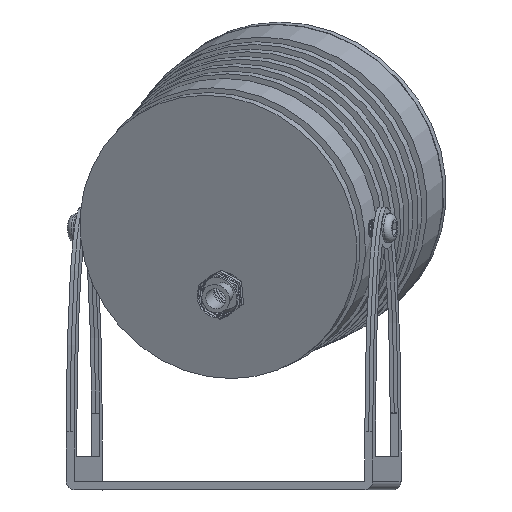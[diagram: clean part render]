
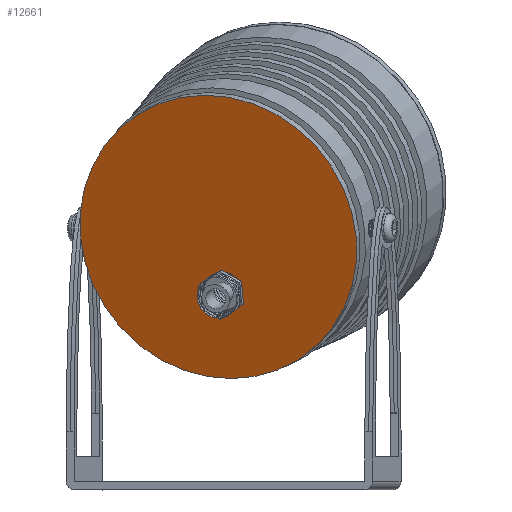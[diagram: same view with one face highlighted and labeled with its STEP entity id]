
A CAD part, top view. The second image highlights one B-rep face of the part: STEP entity #12661.
In plain terms, the highlighted planar face has unit normal (-0.33, -0.259, 0.908).
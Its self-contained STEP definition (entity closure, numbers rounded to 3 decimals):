
#50=FACE_BOUND('',#1369,.T.);
#144=PLANE('',#13388);
#665=FACE_OUTER_BOUND('',#1368,.T.);
#1368=EDGE_LOOP('',(#10065));
#1369=EDGE_LOOP('',(#10066,#10067,#10068,#10069,#10070,#10071,#10072,#10073,
#10074,#10075,#10076,#10077,#10078,#10079,#10080,#10081));
#1744=CIRCLE('',#13221,5.099);
#1763=CIRCLE('',#13389,35.3);
#1764=CIRCLE('',#13390,0.5);
#1765=CIRCLE('',#13391,0.5);
#1766=CIRCLE('',#13392,0.5);
#1767=CIRCLE('',#13393,0.5);
#1768=CIRCLE('',#13394,0.5);
#1769=CIRCLE('',#13395,0.5);
#2678=B_SPLINE_CURVE_WITH_KNOTS('',3,(#42310,#42311,#42312,#42313),
 .UNSPECIFIED.,.F.,.F.,(4,4),(0.,0.011),.UNSPECIFIED.);
#2685=B_SPLINE_CURVE_WITH_KNOTS('',3,(#43429,#43430,#43431,#43432),
 .UNSPECIFIED.,.F.,.F.,(4,4),(0.94,0.951),
 .UNSPECIFIED.);
#3358=LINE('',#43449,#4041);
#3359=LINE('',#43451,#4042);
#3360=LINE('',#43455,#4043);
#3361=LINE('',#43459,#4044);
#3362=LINE('',#43463,#4045);
#3363=LINE('',#43467,#4046);
#3364=LINE('',#43471,#4047);
#4041=VECTOR('',#14940,10.);
#4042=VECTOR('',#14941,10.);
#4043=VECTOR('',#14944,10.);
#4044=VECTOR('',#14947,10.);
#4045=VECTOR('',#14950,10.);
#4046=VECTOR('',#14953,10.);
#4047=VECTOR('',#14956,10.);
#4888=VERTEX_POINT('',#32168);
#4889=VERTEX_POINT('',#32173);
#5173=VERTEX_POINT('',#42309);
#5174=VERTEX_POINT('',#43173);
#5176=VERTEX_POINT('',#43446);
#5177=VERTEX_POINT('',#43448);
#5178=VERTEX_POINT('',#43450);
#5179=VERTEX_POINT('',#43452);
#5180=VERTEX_POINT('',#43454);
#5181=VERTEX_POINT('',#43456);
#5182=VERTEX_POINT('',#43458);
#5183=VERTEX_POINT('',#43460);
#5184=VERTEX_POINT('',#43462);
#5185=VERTEX_POINT('',#43464);
#5186=VERTEX_POINT('',#43466);
#5187=VERTEX_POINT('',#43468);
#5188=VERTEX_POINT('',#43470);
#6454=EDGE_CURVE('',#4889,#4888,#1744,.T.);
#6891=EDGE_CURVE('',#4888,#5173,#2678,.T.);
#6898=EDGE_CURVE('',#5174,#4889,#2685,.T.);
#6901=EDGE_CURVE('',#5176,#5176,#1763,.T.);
#6902=EDGE_CURVE('',#5177,#5174,#3358,.T.);
#6903=EDGE_CURVE('',#5173,#5178,#3359,.T.);
#6904=EDGE_CURVE('',#5178,#5179,#1764,.T.);
#6905=EDGE_CURVE('',#5179,#5180,#3360,.T.);
#6906=EDGE_CURVE('',#5180,#5181,#1765,.T.);
#6907=EDGE_CURVE('',#5181,#5182,#3361,.T.);
#6908=EDGE_CURVE('',#5182,#5183,#1766,.T.);
#6909=EDGE_CURVE('',#5183,#5184,#3362,.T.);
#6910=EDGE_CURVE('',#5184,#5185,#1767,.T.);
#6911=EDGE_CURVE('',#5185,#5186,#3363,.T.);
#6912=EDGE_CURVE('',#5186,#5187,#1768,.T.);
#6913=EDGE_CURVE('',#5187,#5188,#3364,.T.);
#6914=EDGE_CURVE('',#5188,#5177,#1769,.T.);
#10065=ORIENTED_EDGE('',*,*,#6901,.F.);
#10066=ORIENTED_EDGE('',*,*,#6902,.T.);
#10067=ORIENTED_EDGE('',*,*,#6898,.T.);
#10068=ORIENTED_EDGE('',*,*,#6454,.T.);
#10069=ORIENTED_EDGE('',*,*,#6891,.T.);
#10070=ORIENTED_EDGE('',*,*,#6903,.T.);
#10071=ORIENTED_EDGE('',*,*,#6904,.T.);
#10072=ORIENTED_EDGE('',*,*,#6905,.T.);
#10073=ORIENTED_EDGE('',*,*,#6906,.T.);
#10074=ORIENTED_EDGE('',*,*,#6907,.T.);
#10075=ORIENTED_EDGE('',*,*,#6908,.T.);
#10076=ORIENTED_EDGE('',*,*,#6909,.T.);
#10077=ORIENTED_EDGE('',*,*,#6910,.T.);
#10078=ORIENTED_EDGE('',*,*,#6911,.T.);
#10079=ORIENTED_EDGE('',*,*,#6912,.T.);
#10080=ORIENTED_EDGE('',*,*,#6913,.T.);
#10081=ORIENTED_EDGE('',*,*,#6914,.T.);
#12661=ADVANCED_FACE('',(#665,#50),#144,.T.);
#13221=AXIS2_PLACEMENT_3D('',#32174,#14464,#14465);
#13388=AXIS2_PLACEMENT_3D('',#43445,#14936,#14937);
#13389=AXIS2_PLACEMENT_3D('',#43447,#14938,#14939);
#13390=AXIS2_PLACEMENT_3D('',#43453,#14942,#14943);
#13391=AXIS2_PLACEMENT_3D('',#43457,#14945,#14946);
#13392=AXIS2_PLACEMENT_3D('',#43461,#14948,#14949);
#13393=AXIS2_PLACEMENT_3D('',#43465,#14951,#14952);
#13394=AXIS2_PLACEMENT_3D('',#43469,#14954,#14955);
#13395=AXIS2_PLACEMENT_3D('',#43472,#14957,#14958);
#14464=DIRECTION('center_axis',(0.33,0.259,-0.908));
#14465=DIRECTION('ref_axis',(0.089,-0.966,-0.243));
#14936=DIRECTION('center_axis',(-0.33,-0.259,0.908));
#14937=DIRECTION('ref_axis',(0.089,-0.966,-0.243));
#14938=DIRECTION('center_axis',(0.33,0.259,-0.908));
#14939=DIRECTION('ref_axis',(0.089,-0.966,-0.243));
#14940=DIRECTION('',(0.77,0.483,0.418));
#14941=DIRECTION('',(0.77,0.483,0.418));
#14942=DIRECTION('center_axis',(0.33,0.259,-0.908));
#14943=DIRECTION('ref_axis',(-0.089,0.966,0.243));
#14944=DIRECTION('',(0.858,-0.483,0.175));
#14945=DIRECTION('center_axis',(0.33,0.259,-0.908));
#14946=DIRECTION('ref_axis',(0.77,0.483,0.418));
#14947=DIRECTION('',(0.089,-0.966,-0.243));
#14948=DIRECTION('center_axis',(0.33,0.259,-0.908));
#14949=DIRECTION('ref_axis',(0.858,-0.483,0.175));
#14950=DIRECTION('',(-0.77,-0.483,-0.418));
#14951=DIRECTION('center_axis',(0.33,0.259,-0.908));
#14952=DIRECTION('ref_axis',(0.089,-0.966,-0.243));
#14953=DIRECTION('',(-0.858,0.483,-0.175));
#14954=DIRECTION('center_axis',(0.33,0.259,-0.908));
#14955=DIRECTION('ref_axis',(-0.77,-0.483,-0.418));
#14956=DIRECTION('',(-0.089,0.966,0.243));
#14957=DIRECTION('center_axis',(0.33,0.259,-0.908));
#14958=DIRECTION('ref_axis',(-0.858,0.483,-0.175));
#32168=CARTESIAN_POINT('',(194.732,-103.436,-306.128));
#32173=CARTESIAN_POINT('',(192.696,-104.714,-307.233));
#32174=CARTESIAN_POINT('Origin',(196.406,-108.194,-306.876));
#42309=CARTESIAN_POINT('',(194.835,-103.418,-306.085));
#42310=CARTESIAN_POINT('Ctrl Pts',(194.732,-103.436,-306.128));
#42311=CARTESIAN_POINT('Ctrl Pts',(194.767,-103.43,-306.114));
#42312=CARTESIAN_POINT('Ctrl Pts',(194.801,-103.423,-306.099));
#42313=CARTESIAN_POINT('Ctrl Pts',(194.835,-103.418,-306.085));
#43173=CARTESIAN_POINT('',(192.636,-104.798,-307.279));
#43429=CARTESIAN_POINT('Ctrl Pts',(192.636,-104.798,-307.279));
#43430=CARTESIAN_POINT('Ctrl Pts',(192.656,-104.769,-307.264));
#43431=CARTESIAN_POINT('Ctrl Pts',(192.676,-104.741,-307.249));
#43432=CARTESIAN_POINT('Ctrl Pts',(192.696,-104.714,-307.233));
#43445=CARTESIAN_POINT('Origin',(192.05,-60.671,-294.91));
#43446=CARTESIAN_POINT('',(198.3,-128.865,-312.08));
#43447=CARTESIAN_POINT('Origin',(195.175,-94.768,-303.495));
#43448=CARTESIAN_POINT('',(191.788,-105.331,-307.74));
#43449=CARTESIAN_POINT('',(204.286,-97.486,-300.954));
#43450=CARTESIAN_POINT('',(195.684,-102.885,-305.624));
#43451=CARTESIAN_POINT('',(204.286,-97.486,-300.954));
#43452=CARTESIAN_POINT('',(196.154,-102.885,-305.453));
#43453=CARTESIAN_POINT('Origin',(195.957,-103.303,-305.644));
#43454=CARTESIAN_POINT('',(200.499,-105.331,-304.569));
#43455=CARTESIAN_POINT('',(188.982,-98.848,-306.913));
#43456=CARTESIAN_POINT('',(200.772,-105.749,-304.589));
#43457=CARTESIAN_POINT('Origin',(200.302,-105.749,-304.76));
#43458=CARTESIAN_POINT('',(201.22,-110.64,-305.821));
#43459=CARTESIAN_POINT('',(198.944,-85.795,-299.565));
#43460=CARTESIAN_POINT('',(201.024,-111.058,-306.011));
#43461=CARTESIAN_POINT('Origin',(200.751,-110.64,-305.992));
#43462=CARTESIAN_POINT('',(197.127,-113.504,-308.127));
#43463=CARTESIAN_POINT('',(207.456,-107.022,-302.519));
#43464=CARTESIAN_POINT('',(196.657,-113.504,-308.298));
#43465=CARTESIAN_POINT('Origin',(196.854,-113.085,-308.107));
#43466=CARTESIAN_POINT('',(192.312,-111.058,-309.182));
#43467=CARTESIAN_POINT('',(182.721,-105.659,-311.134));
#43468=CARTESIAN_POINT('',(192.039,-110.64,-309.162));
#43469=CARTESIAN_POINT('Origin',(192.509,-110.64,-308.991));
#43470=CARTESIAN_POINT('',(191.591,-105.749,-307.931));
#43471=CARTESIAN_POINT('',(189.513,-83.07,-302.221));
#43472=CARTESIAN_POINT('Origin',(192.061,-105.749,-307.76));
